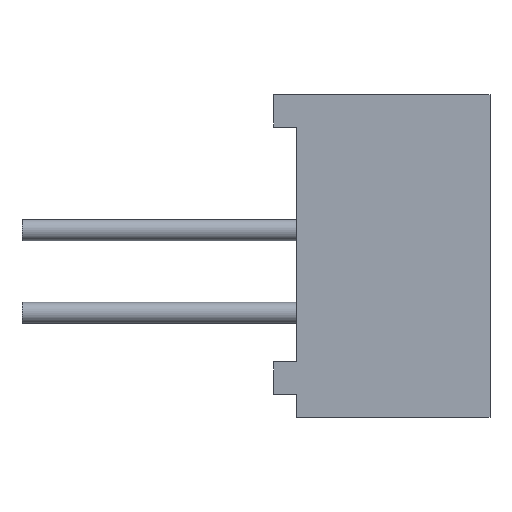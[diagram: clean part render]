
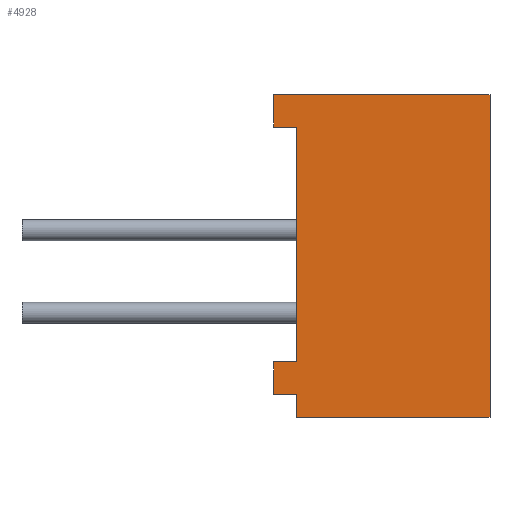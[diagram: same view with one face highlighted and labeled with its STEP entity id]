
A CAD part, left-side view. The second image highlights one B-rep face of the part: STEP entity #4928.
In plain terms, the highlighted planar face has unit normal (-1, 0, 0).
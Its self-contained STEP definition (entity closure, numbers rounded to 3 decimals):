
#262=LINE('',#7539,#660);
#266=LINE('',#7547,#664);
#281=LINE('',#7577,#679);
#285=LINE('',#7585,#683);
#288=LINE('',#7591,#686);
#447=LINE('',#7961,#845);
#451=LINE('',#7986,#849);
#452=LINE('',#7988,#850);
#456=LINE('',#7996,#854);
#457=LINE('',#7998,#855);
#660=VECTOR('',#5528,1000.);
#664=VECTOR('',#5532,1000.);
#679=VECTOR('',#5555,1000.);
#683=VECTOR('',#5563,1000.);
#686=VECTOR('',#5568,1000.);
#845=VECTOR('',#5889,1000.);
#849=VECTOR('',#5933,1000.);
#850=VECTOR('',#5936,1000.);
#854=VECTOR('',#5944,1000.);
#855=VECTOR('',#5945,1000.);
#1710=ORIENTED_EDGE('',*,*,#2356,.T.);
#1711=ORIENTED_EDGE('',*,*,#2155,.F.);
#1712=ORIENTED_EDGE('',*,*,#2136,.T.);
#1713=ORIENTED_EDGE('',*,*,#2338,.T.);
#1714=ORIENTED_EDGE('',*,*,#2361,.F.);
#1715=ORIENTED_EDGE('',*,*,#2362,.F.);
#1716=ORIENTED_EDGE('',*,*,#2357,.T.);
#1717=ORIENTED_EDGE('',*,*,#2162,.F.);
#1718=ORIENTED_EDGE('',*,*,#2140,.T.);
#1719=ORIENTED_EDGE('',*,*,#2159,.T.);
#2136=EDGE_CURVE('',#2543,#2542,#262,.T.);
#2140=EDGE_CURVE('',#2547,#2546,#266,.T.);
#2155=EDGE_CURVE('',#2543,#2557,#281,.T.);
#2159=EDGE_CURVE('',#2546,#2559,#285,.T.);
#2162=EDGE_CURVE('',#2547,#2561,#288,.T.);
#2338=EDGE_CURVE('',#2542,#2687,#447,.T.);
#2356=EDGE_CURVE('',#2559,#2557,#451,.T.);
#2357=EDGE_CURVE('',#2689,#2561,#452,.T.);
#2361=EDGE_CURVE('',#2691,#2687,#456,.T.);
#2362=EDGE_CURVE('',#2689,#2691,#457,.T.);
#2542=VERTEX_POINT('',#7538);
#2543=VERTEX_POINT('',#7540);
#2546=VERTEX_POINT('',#7546);
#2547=VERTEX_POINT('',#7548);
#2557=VERTEX_POINT('',#7575);
#2559=VERTEX_POINT('',#7584);
#2561=VERTEX_POINT('',#7589);
#2687=VERTEX_POINT('',#7960);
#2689=VERTEX_POINT('',#7989);
#2691=VERTEX_POINT('',#7997);
#2954=EDGE_LOOP('',(#1710,#1711,#1712,#1713,#1714,#1715,#1716,#1717,#1718,
#1719));
#3178=FACE_BOUND('',#2954,.T.);
#3357=PLANE('',#5139);
#4928=ADVANCED_FACE('',(#3178),#3357,.T.);
#5139=AXIS2_PLACEMENT_3D('',#7995,#5942,#5943);
#5528=DIRECTION('',(0.,0.,-1.));
#5532=DIRECTION('',(0.,0.,-1.));
#5555=DIRECTION('',(0.,1.,0.));
#5563=DIRECTION('',(0.,1.,0.));
#5568=DIRECTION('',(0.,1.,0.));
#5889=DIRECTION('',(0.,-1.,0.));
#5933=DIRECTION('',(0.,0.,-1.));
#5936=DIRECTION('',(0.,0.,-1.));
#5942=DIRECTION('',(-1.,0.,0.));
#5943=DIRECTION('',(0.,0.,1.));
#5944=DIRECTION('',(0.,0.,-1.));
#5945=DIRECTION('',(0.,-1.,0.));
#7538=CARTESIAN_POINT('',(-3.3,4.2,-3.5));
#7539=CARTESIAN_POINT('',(-3.3,4.2,-3.5));
#7540=CARTESIAN_POINT('',(-3.3,4.2,-3.));
#7546=CARTESIAN_POINT('',(-3.3,4.2,-2.3));
#7547=CARTESIAN_POINT('',(-3.3,4.2,2.8));
#7548=CARTESIAN_POINT('',(-3.3,4.2,2.8));
#7575=CARTESIAN_POINT('',(-3.3,4.7,-3.));
#7577=CARTESIAN_POINT('',(-3.3,4.2,-3.));
#7584=CARTESIAN_POINT('',(-3.3,4.7,-2.3));
#7585=CARTESIAN_POINT('',(-3.3,4.2,-2.3));
#7589=CARTESIAN_POINT('',(-3.3,4.7,2.8));
#7591=CARTESIAN_POINT('',(-3.3,4.2,2.8));
#7960=CARTESIAN_POINT('',(-3.3,0.,-3.5));
#7961=CARTESIAN_POINT('',(-3.3,4.7,-3.5));
#7986=CARTESIAN_POINT('',(-3.3,4.7,3.5));
#7988=CARTESIAN_POINT('',(-3.3,4.7,3.5));
#7989=CARTESIAN_POINT('',(-3.3,4.7,3.5));
#7995=CARTESIAN_POINT('',(-3.3,4.7,3.5));
#7996=CARTESIAN_POINT('',(-3.3,0.,3.5));
#7997=CARTESIAN_POINT('',(-3.3,0.,3.5));
#7998=CARTESIAN_POINT('',(-3.3,4.7,3.5));
